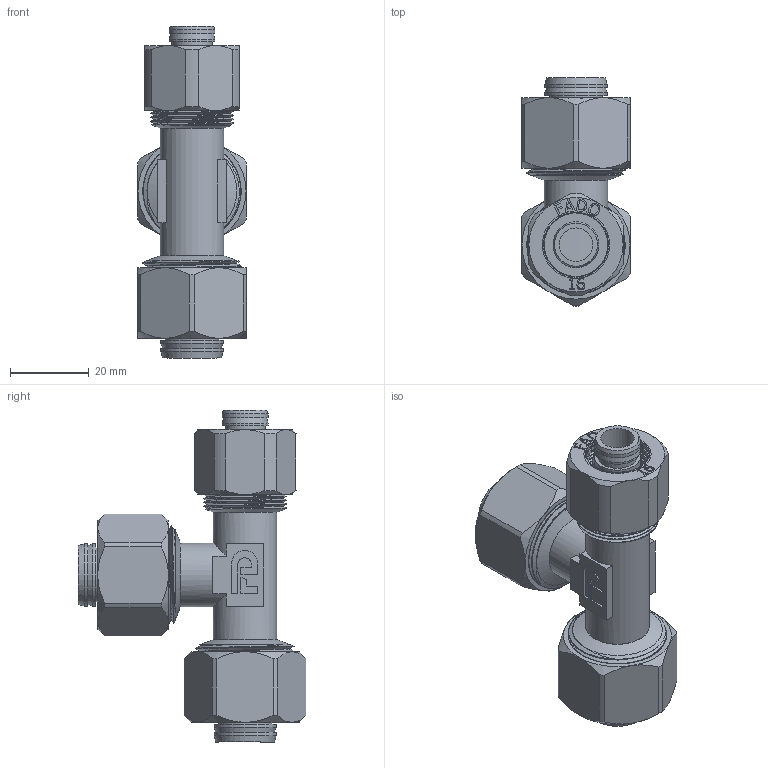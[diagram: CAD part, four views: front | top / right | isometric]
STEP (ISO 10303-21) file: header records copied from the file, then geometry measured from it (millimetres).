
FILE_DESCRIPTION(/* description */ (''),/* implementation_level */ '2;1');
FILE_NAME(/* name */ 'C:\Users\Doom\Desktop\Фадотех\Обжим\RFT02 20x20x16 20.04.2020\RFT02 20x20x16 20.04.2020.stp',/* time_stamp */ '2022-05-31T16:33:08+03:00',/* author */ ('Doom'),/* organization */ (''),/* preprocessor_version */ 'ST-DEVELOPER v18',/* originating_system */ 'Autodesk Inventor 2020',/* authorisation */ '');
FILE_SCHEMA (('AUTOMOTIVE_DESIGN { 1 0 10303 214 3 1 1 }'));
Length unit declared in the file: millimetre
Products named in the file (8): RFT02 20x20x16 20.04.2020; RFM29 32x1.2M 30.03.2020; FADO MC Nut-16 15.02.2020; FADO MC Socket-16 15.02.2020; FADO MC Nut-20 15.02.2020; FADO MC Socket-20 15.02.2020; Olive 16 15.02.2020; Olive 20 15.02.2020
Assembly tree (10 placements, depth 2):
  RFT02 20x20x16 20.04.2020
    RFM29 32x1.2M 30.03.2020
    FADO MC Nut-16 15.02.2020
    FADO MC Socket-16 15.02.2020
    FADO MC Nut-20 15.02.2020  x2
    FADO MC Socket-20 15.02.2020  x2
    Olive 16 15.02.2020
    Olive 20 15.02.2020  x2
Bounding box: 27.5 x 58 x 84.5 mm (x, y, z)
Volume: 30664.9 mm3; surface area: 45475 mm2
Topology: 16 solids, 16 shells, 1510 faces, 4139 edges, 2780 vertices
Faces by surface type: bspline 758, plane 442, cylinder 226, cone 78, torus 6
Full cylindrical faces by diameter (mm): 8.5 x1, 10.2 x2, 11.5 x2, 11.7 x4, 12 x2, 12.6 x1, 13.531 x4, 14.5 x2, 14.7 x2, 15.5 x1, 15.802 x10, 16.2 x2, 16.5 x1, 17.391 x2, 17.5 x2, 18 x2, 19 x1, 19.5 x1, 19.517 x2, 19.867 x12, 20.5 x2, 21 x10, 21.35 x2, 22.776 x20, 23 x2, 24.1 x2, 25 x15
Entity records: 64646 total; most frequent: CARTESIAN_POINT 40854, ORIENTED_EDGE 5782, DIRECTION 3337, EDGE_CURVE 2891, VERTEX_POINT 1944, EDGE_LOOP 1163, B_SPLINE_CURVE_WITH_KNOTS 1156, LINE 1145
